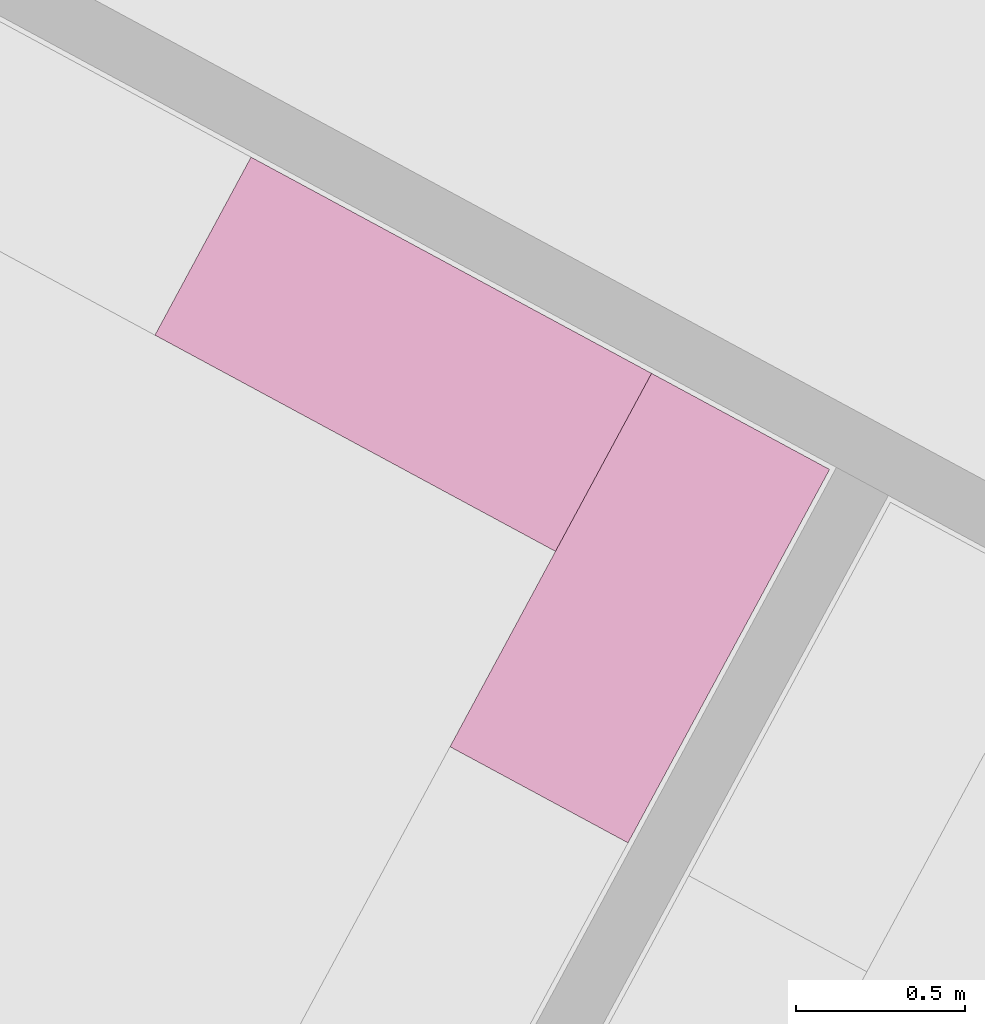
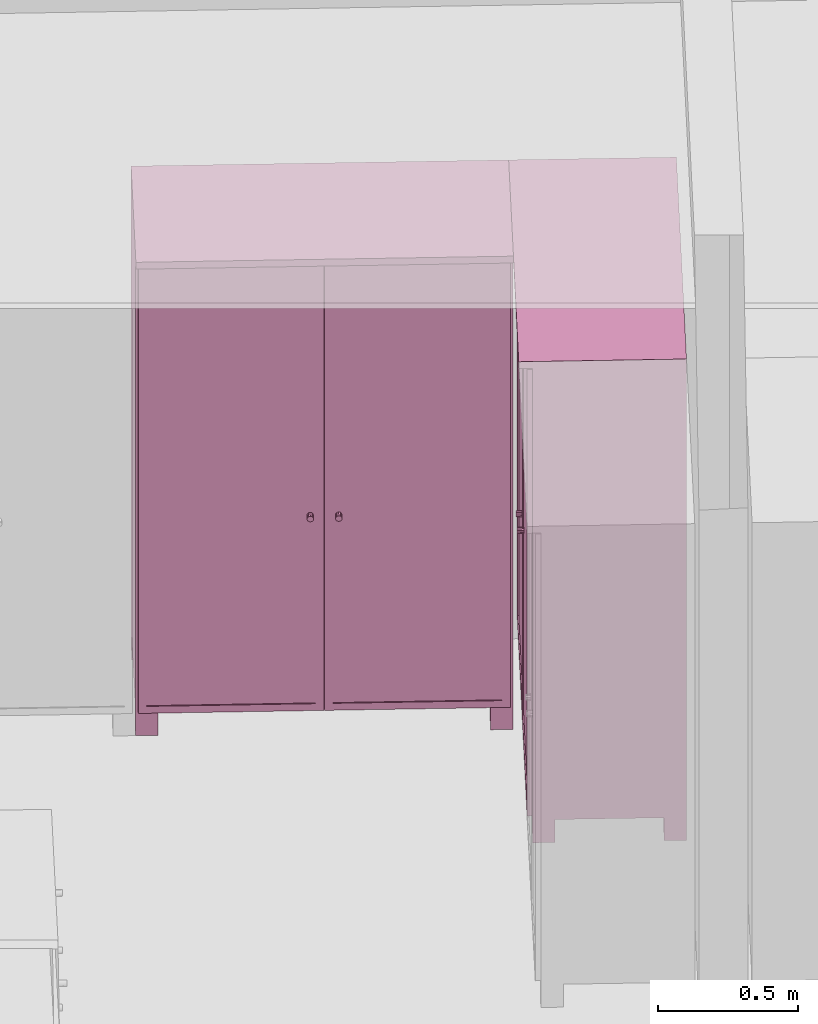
# One storey, part 32 of 48: 2 furnishings.
"""IFC2X3 building model written with IfcOpenShell, lengths in metres."""

from ifc_helpers import new_model, entity, si_unit, converted_unit, derived_unit, money_unit, direction, frame, origin_with_axes, place, context, subcontext, project, spatial, faceted_brep, type_object, element, save


model = new_model("IFC2X3")

# Units and contexts
model_context = context("Model", 3, precision=1e-05, world=origin_with_axes(), true_north=direction((0.0, 1.0)))
body_context = subcontext(model_context, "Body", "Model", "MODEL_VIEW")
ifc_project = project(units=[si_unit("LENGTHUNIT", "METRE"), si_unit("AREAUNIT", "SQUARE_METRE"), si_unit("VOLUMEUNIT", "CUBIC_METRE"), converted_unit("PLANEANGLEUNIT", "DEGREE", entity("IfcPlaneAngleMeasure", 0.0174532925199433), si_unit("PLANEANGLEUNIT", "RADIAN"), dimensions=[0, 0, 0, 0, 0, 0, 0]), money_unit("EUR"), converted_unit("TIMEUNIT", "Year", entity("IfcTimeMeasure", 31556926.0), si_unit("TIMEUNIT", "SECOND"), dimensions=[0, 0, 1, 0, 0, 0, 0]), si_unit("MASSUNIT", "GRAM", prefix="KILO"), si_unit("THERMODYNAMICTEMPERATUREUNIT", "DEGREE_CELSIUS"), si_unit("LUMINOUSINTENSITYUNIT", "LUMEN"), si_unit("ENERGYUNIT", "JOULE", prefix="MEGA"), derived_unit("THERMALCONDUCTANCEUNIT", [(si_unit("POWERUNIT", "WATT"), 1), (si_unit("LENGTHUNIT", "METRE"), -1), (si_unit("THERMODYNAMICTEMPERATUREUNIT", "KELVIN"), -1)]), derived_unit("SPECIFICHEATCAPACITYUNIT", [(si_unit("ENERGYUNIT", "JOULE"), 1), (si_unit("MASSUNIT", "GRAM", prefix="KILO"), -1), (si_unit("THERMODYNAMICTEMPERATUREUNIT", "KELVIN"), -1)]), derived_unit("MASSDENSITYUNIT", [(si_unit("MASSUNIT", "GRAM", prefix="KILO"), 1), (si_unit("VOLUMEUNIT", "CUBIC_METRE"), -1)])], contexts=[model_context])

# Site, building, storey
site_placement = place(None, frame((-3.949935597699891, 1.740105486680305, 0.0), z_axis=(0.0, 0.0, 1.0), x_axis=(0.8799804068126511, -0.475009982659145, 0.0)))
site = spatial("IfcSite", under=ifc_project, at=site_placement, Name="Gelände", CompositionType="ELEMENT")
building_placement = place(site_placement, origin_with_axes())
building = spatial("IfcBuilding", under=site, at=building_placement, Name="Gebäude", CompositionType="ELEMENT")
storey_placement = place(building_placement, frame((0.0, 0.0, 4.55), z_axis=(0.0, 0.0, 1.0), x_axis=(1.0, 0.0, 0.0)))
storey = spatial("IfcBuildingStorey", under=building, at=storey_placement, Name="Staffelgeschoss", CompositionType="ELEMENT", Elevation=4.55)

# Furnishings
furnishing_element_type = type_object("IfcFurnishingElementType", Name="Kleiderschrank 22")
furnishing_1_placement = place(storey_placement, frame((15.97849488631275, 5.70306071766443, 0.0), z_axis=(0.0, 0.0, 1.0), x_axis=(0.0, -1.0, 0.0)))
element("IfcFurnishingElement", 1, at=furnishing_1_placement, inside=storey, type_object=furnishing_element_type, Name="Objekt-0066", context=body_context, shape_type="Brep", body=[
    faceted_brep([(0.02000000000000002, 0.6000000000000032, 0.12), (0.02000000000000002, 0.5800000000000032, 0.12), (0.02000000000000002, 0.5800000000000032, 2.05), (0.02000000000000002, 0.6000000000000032, 2.05), (1.238534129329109, 0.6000000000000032, 0.12), (1.238534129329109, 0.5800000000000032, 0.12), (1.238534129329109, 0.5800000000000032, 2.05), (1.238534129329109, 0.6000000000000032, 2.05)], [[[0, 1, 2, 3]], [[0, 4, 5, 1]], [[1, 5, 6, 2]], [[3, 2, 6, 7]], [[4, 0, 3, 7]], [[5, 4, 7, 6]]]),
    faceted_brep([(1.258534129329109, 0.05000000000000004, 0.1), (1.238534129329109, 0.05000000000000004, 0.1), (1.238534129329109, 0.6000000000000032, 0.1), (1.258534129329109, 0.6000000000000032, 0.1), (1.258534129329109, 0.05000000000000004, 2.07), (1.238534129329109, 0.05000000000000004, 2.07), (1.238534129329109, 0.6000000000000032, 2.07), (1.258534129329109, 0.6000000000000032, 2.07)], [[[0, 1, 2, 3]], [[1, 0, 4, 5]], [[2, 1, 5, 6]], [[3, 2, 6, 7]], [[0, 3, 7, 4]], [[5, 4, 7, 6]]]),
    faceted_brep([(0.02, 0.05000000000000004, 0.1), (0.0, 0.05000000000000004, 0.1), (0.0, 0.6000000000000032, 0.1), (0.02, 0.6000000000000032, 0.1), (0.02, 0.05000000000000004, 2.07), (0.0, 0.05000000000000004, 2.07), (0.0, 0.6000000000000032, 2.07), (0.02, 0.6000000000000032, 2.07)], [[[0, 1, 2, 3]], [[1, 0, 4, 5]], [[2, 1, 5, 6]], [[3, 2, 6, 7]], [[0, 3, 7, 4]], [[5, 4, 7, 6]]]),
    faceted_brep([(1.238534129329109, 0.05000000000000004, 0.1), (0.02000000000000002, 0.05000000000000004, 0.1), (0.02000000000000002, 0.6000000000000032, 0.1), (1.238534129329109, 0.6000000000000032, 0.1), (1.238534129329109, 0.05000000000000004, 0.12), (0.02000000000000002, 0.05000000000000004, 0.12), (0.02000000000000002, 0.6000000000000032, 0.12), (1.238534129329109, 0.6000000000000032, 0.12)], [[[0, 1, 2, 3]], [[1, 0, 4, 5]], [[2, 1, 5, 6]], [[3, 2, 6, 7]], [[0, 3, 7, 4]], [[5, 4, 7, 6]]]),
    faceted_brep([(1.238534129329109, 0.05000000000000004, 2.05), (0.02000000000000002, 0.05000000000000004, 2.05), (0.02000000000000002, 0.6000000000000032, 2.05), (1.238534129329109, 0.6000000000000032, 2.05), (1.238534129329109, 0.05000000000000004, 2.07), (0.02000000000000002, 0.05000000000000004, 2.07), (0.02000000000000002, 0.6000000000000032, 2.07), (1.238534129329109, 0.6000000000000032, 2.07)], [[[0, 1, 2, 3]], [[1, 0, 4, 5]], [[2, 1, 5, 6]], [[3, 2, 6, 7]], [[0, 3, 7, 4]], [[5, 4, 7, 6]]]),
    faceted_brep([(1.258534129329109, 0.6000000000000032, 2.07), (1.258534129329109, 0.6000000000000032, 2.1), (1.258534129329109, 0.0, 2.1), (1.258534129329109, 0.0, 2.07), (0.0, 0.6000000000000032, 2.07), (0.0, 0.6000000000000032, 2.1), (0.0, 0.0, 2.1), (0.0, 0.0, 2.07)], [[[0, 1, 2, 3]], [[4, 5, 1, 0]], [[1, 5, 6, 2]], [[3, 2, 6, 7]], [[0, 3, 7, 4]], [[7, 6, 5, 4]]]),
    faceted_brep([(0.08000000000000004, 0.5200000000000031, 0.0), (0.08000000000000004, 0.6000000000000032, 0.0), (0.08000000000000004, 0.6000000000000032, 0.1), (0.08000000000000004, 0.5200000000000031, 0.1), (0.0, 0.5200000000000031, 0.0), (0.0, 0.6000000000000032, 0.0), (0.0, 0.6000000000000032, 0.1), (0.0, 0.5200000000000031, 0.1)], [[[0, 1, 2, 3]], [[0, 4, 5, 1]], [[1, 5, 6, 2]], [[3, 2, 6, 7]], [[4, 0, 3, 7]], [[5, 4, 7, 6]]]),
    faceted_brep([(1.258534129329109, 0.5200000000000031, 0.0), (1.258534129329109, 0.6000000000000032, 0.0), (1.258534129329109, 0.6000000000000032, 0.1), (1.258534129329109, 0.5200000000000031, 0.1), (1.178534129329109, 0.5200000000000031, 0.0), (1.178534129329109, 0.6000000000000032, 0.0), (1.178534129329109, 0.6000000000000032, 0.1), (1.178534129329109, 0.5200000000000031, 0.1)], [[[0, 1, 2, 3]], [[0, 4, 5, 1]], [[1, 5, 6, 2]], [[3, 2, 6, 7]], [[4, 0, 3, 7]], [[5, 4, 7, 6]]]),
    faceted_brep([(0.08000000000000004, 0.05000000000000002, 0.0), (0.08000000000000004, 0.13, 0.0), (0.08000000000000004, 0.13, 0.1), (0.08000000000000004, 0.05000000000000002, 0.1), (0.0, 0.05000000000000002, 0.0), (0.0, 0.13, 0.0), (0.0, 0.13, 0.1), (0.0, 0.05000000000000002, 0.1)], [[[0, 1, 2, 3]], [[0, 4, 5, 1]], [[1, 5, 6, 2]], [[3, 2, 6, 7]], [[4, 0, 3, 7]], [[5, 4, 7, 6]]]),
    faceted_brep([(1.258534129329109, 0.05000000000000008, 0.0), (1.258534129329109, 0.1300000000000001, 0.0), (1.258534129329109, 0.1300000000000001, 0.1), (1.258534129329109, 0.05000000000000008, 0.1), (1.178534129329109, 0.05000000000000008, 0.0), (1.178534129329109, 0.1300000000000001, 0.0), (1.178534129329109, 0.1300000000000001, 0.1), (1.178534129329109, 0.05000000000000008, 0.1)], [[[0, 1, 2, 3]], [[0, 4, 5, 1]], [[1, 5, 6, 2]], [[3, 2, 6, 7]], [[4, 0, 3, 7]], [[5, 4, 7, 6]]]),
    faceted_brep([(0.6287670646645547, 0.05, 0.1104999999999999), (0.6287670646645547, 0.05000000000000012, 2.0595), (0.6287670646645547, 0.03000000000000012, 2.0595), (0.6287670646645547, 0.03, 0.1104999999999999), (0.5987670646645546, 0.05, 0.1405), (0.5987670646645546, 0.05000000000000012, 2.0295), (0.5987670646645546, 0.03000000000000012, 2.0295), (0.5987670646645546, 0.03000000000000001, 0.1405)], [[[0, 1, 2, 3]], [[0, 4, 5, 1]], [[1, 5, 6, 2]], [[3, 2, 6, 7]], [[4, 0, 3, 7]], [[5, 4, 7, 6]]]),
    faceted_brep([(0.04049999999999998, 0.05, 0.1405), (0.04049999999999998, 0.05000000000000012, 2.0295), (0.04049999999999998, 0.03000000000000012, 2.0295), (0.04049999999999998, 0.03000000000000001, 0.1405), (0.01050000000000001, 0.05, 0.1104999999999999), (0.01050000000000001, 0.05000000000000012, 2.0595), (0.01050000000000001, 0.03000000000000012, 2.0595), (0.01050000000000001, 0.03, 0.1104999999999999)], [[[0, 1, 2, 3]], [[0, 4, 5, 1]], [[1, 5, 6, 2]], [[3, 2, 6, 7]], [[4, 0, 3, 7]], [[5, 4, 7, 6]]]),
    faceted_brep([(0.01050000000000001, 0.05, 0.1104999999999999), (0.6287670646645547, 0.05, 0.1104999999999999), (0.6287670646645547, 0.03, 0.1104999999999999), (0.01050000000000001, 0.03, 0.1104999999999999), (0.04049999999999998, 0.05, 0.1405), (0.5987670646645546, 0.05, 0.1405), (0.5987670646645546, 0.03000000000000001, 0.1405), (0.04049999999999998, 0.03000000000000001, 0.1405)], [[[0, 1, 2, 3]], [[0, 4, 5, 1]], [[1, 5, 6, 2]], [[3, 2, 6, 7]], [[4, 0, 3, 7]], [[5, 4, 7, 6]]]),
    faceted_brep([(0.04049999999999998, 0.05000000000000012, 2.0295), (0.5987670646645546, 0.05000000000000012, 2.0295), (0.5987670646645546, 0.03000000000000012, 2.0295), (0.04049999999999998, 0.03000000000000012, 2.0295), (0.01050000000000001, 0.05000000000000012, 2.0595), (0.6287670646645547, 0.05000000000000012, 2.0595), (0.6287670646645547, 0.03000000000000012, 2.0595), (0.01050000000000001, 0.03000000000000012, 2.0595)], [[[0, 1, 2, 3]], [[0, 4, 5, 1]], [[1, 5, 6, 2]], [[3, 2, 6, 7]], [[4, 0, 3, 7]], [[5, 4, 7, 6]]]),
    faceted_brep([(0.5987670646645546, 0.04500000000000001, 0.1405), (0.5987670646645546, 0.04500000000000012, 2.0295), (0.5987670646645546, 0.03500000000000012, 2.0295), (0.5987670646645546, 0.035, 0.1405), (0.04049999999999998, 0.04500000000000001, 0.1405), (0.04049999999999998, 0.04500000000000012, 2.0295), (0.04049999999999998, 0.03500000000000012, 2.0295), (0.04049999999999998, 0.035, 0.1405)], [[[0, 1, 2, 3]], [[0, 4, 5, 1]], [[1, 5, 6, 2]], [[3, 2, 6, 7]], [[4, 0, 3, 7]], [[5, 4, 7, 6]]]),
    faceted_brep([(0.5886593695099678, 0.035, 0.954), (0.5842670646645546, 0.035, 0.9496076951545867), (0.5782670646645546, 0.035, 0.948), (0.5722670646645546, 0.035, 0.9496076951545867), (0.5678747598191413, 0.035, 0.954), (0.5662670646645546, 0.035, 0.96), (0.5678747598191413, 0.035, 0.966), (0.5722670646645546, 0.035, 0.9703923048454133), (0.5782670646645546, 0.035, 0.972), (0.5842670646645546, 0.035, 0.9703923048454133), (0.5886593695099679, 0.035, 0.966), (0.5902670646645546, 0.035, 0.96), (0.5886593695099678, 0.01, 0.954), (0.5842670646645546, 0.01, 0.9496076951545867), (0.5782670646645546, 0.01, 0.948), (0.5722670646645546, 0.01, 0.9496076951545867), (0.5678747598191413, 0.01, 0.954), (0.5662670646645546, 0.01, 0.96), (0.5678747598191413, 0.01, 0.966), (0.5722670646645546, 0.01, 0.9703923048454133), (0.5782670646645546, 0.01, 0.972), (0.5842670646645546, 0.01, 0.9703923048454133), (0.5886593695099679, 0.01, 0.966), (0.5902670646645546, 0.01, 0.96)], [[[0, 1, 2, 3, 4, 5, 6, 7, 8, 9, 10, 11]], [[1, 0, 12, 13]], [[2, 1, 13, 14]], [[3, 2, 14, 15]], [[4, 3, 15, 16]], [[5, 4, 16, 17]], [[6, 5, 17, 18]], [[7, 6, 18, 19]], [[8, 7, 19, 20]], [[9, 8, 20, 21]], [[10, 9, 21, 22]], [[11, 10, 22, 23]], [[0, 11, 23, 12]], [[12, 23, 22, 21, 20, 19, 18, 17, 16, 15, 14, 13]]]),
    faceted_brep([(1.249034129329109, 0.05, 0.1104999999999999), (1.249034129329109, 0.05000000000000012, 2.0595), (1.249034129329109, 0.03000000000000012, 2.0595), (1.249034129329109, 0.03, 0.1104999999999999), (1.219034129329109, 0.05, 0.1405), (1.219034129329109, 0.05000000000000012, 2.0295), (1.219034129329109, 0.03000000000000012, 2.0295), (1.219034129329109, 0.03000000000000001, 0.1405)], [[[0, 1, 2, 3]], [[0, 4, 5, 1]], [[1, 5, 6, 2]], [[3, 2, 6, 7]], [[4, 0, 3, 7]], [[5, 4, 7, 6]]]),
    faceted_brep([(0.6607670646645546, 0.05, 0.1405), (0.6607670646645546, 0.05000000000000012, 2.0295), (0.6607670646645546, 0.03000000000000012, 2.0295), (0.6607670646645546, 0.03000000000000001, 0.1405), (0.6307670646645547, 0.05, 0.1104999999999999), (0.6307670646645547, 0.05000000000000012, 2.0595), (0.6307670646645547, 0.03000000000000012, 2.0595), (0.6307670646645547, 0.03, 0.1104999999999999)], [[[0, 1, 2, 3]], [[0, 4, 5, 1]], [[1, 5, 6, 2]], [[3, 2, 6, 7]], [[4, 0, 3, 7]], [[5, 4, 7, 6]]]),
    faceted_brep([(0.6307670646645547, 0.05, 0.1104999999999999), (1.249034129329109, 0.05, 0.1104999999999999), (1.249034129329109, 0.03, 0.1104999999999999), (0.6307670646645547, 0.03, 0.1104999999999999), (0.6607670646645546, 0.05, 0.1405), (1.219034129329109, 0.05, 0.1405), (1.219034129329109, 0.03000000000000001, 0.1405), (0.6607670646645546, 0.03000000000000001, 0.1405)], [[[0, 1, 2, 3]], [[0, 4, 5, 1]], [[1, 5, 6, 2]], [[3, 2, 6, 7]], [[4, 0, 3, 7]], [[5, 4, 7, 6]]]),
    faceted_brep([(0.6607670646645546, 0.05000000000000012, 2.0295), (1.219034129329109, 0.05000000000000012, 2.0295), (1.219034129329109, 0.03000000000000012, 2.0295), (0.6607670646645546, 0.03000000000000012, 2.0295), (0.6307670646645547, 0.05000000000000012, 2.0595), (1.249034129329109, 0.05000000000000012, 2.0595), (1.249034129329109, 0.03000000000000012, 2.0595), (0.6307670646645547, 0.03000000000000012, 2.0595)], [[[0, 1, 2, 3]], [[0, 4, 5, 1]], [[1, 5, 6, 2]], [[3, 2, 6, 7]], [[4, 0, 3, 7]], [[5, 4, 7, 6]]]),
    faceted_brep([(1.219034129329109, 0.04500000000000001, 0.1405), (1.219034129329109, 0.04500000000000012, 2.0295), (1.219034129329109, 0.04000000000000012, 2.0295), (1.219034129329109, 0.04000000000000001, 0.1405), (0.6607670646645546, 0.04500000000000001, 0.1405), (0.6607670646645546, 0.04500000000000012, 2.0295), (0.6607670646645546, 0.04000000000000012, 2.0295), (0.6607670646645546, 0.04000000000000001, 0.1405)], [[[0, 1, 2, 3]], [[0, 4, 5, 1]], [[1, 5, 6, 2]], [[3, 2, 6, 7]], [[4, 0, 3, 7]], [[5, 4, 7, 6]]]),
    faceted_brep([(1.219034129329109, 0.04000000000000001, 0.1405), (1.219034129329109, 0.04000000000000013, 2.0295), (1.219034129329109, 0.03500000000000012, 2.0295), (1.219034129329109, 0.03500000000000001, 0.1405), (0.6607670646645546, 0.04000000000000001, 0.1405), (0.6607670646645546, 0.04000000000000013, 2.0295), (0.6607670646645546, 0.03500000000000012, 2.0295), (0.6607670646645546, 0.03500000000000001, 0.1405)], [[[0, 1, 2, 3]], [[0, 4, 5, 1]], [[1, 5, 6, 2]], [[3, 2, 6, 7]], [[4, 0, 3, 7]], [[5, 4, 7, 6]]]),
    faceted_brep([(0.6698747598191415, 0.035, 0.954), (0.6682670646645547, 0.035, 0.96), (0.6698747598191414, 0.035, 0.966), (0.6742670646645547, 0.035, 0.9703923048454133), (0.6802670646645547, 0.035, 0.972), (0.6862670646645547, 0.035, 0.9703923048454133), (0.690659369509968, 0.035, 0.966), (0.6922670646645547, 0.035, 0.96), (0.690659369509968, 0.035, 0.954), (0.6862670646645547, 0.035, 0.9496076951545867), (0.6802670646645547, 0.035, 0.948), (0.6742670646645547, 0.035, 0.9496076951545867), (0.6698747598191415, 0.01, 0.954), (0.6682670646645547, 0.01, 0.96), (0.6698747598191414, 0.01, 0.966), (0.6742670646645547, 0.01, 0.9703923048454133), (0.6802670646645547, 0.01, 0.972), (0.6862670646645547, 0.01, 0.9703923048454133), (0.690659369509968, 0.01, 0.966), (0.6922670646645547, 0.01, 0.96), (0.690659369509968, 0.01, 0.954), (0.6862670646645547, 0.01, 0.9496076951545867), (0.6802670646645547, 0.01, 0.948), (0.6742670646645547, 0.01, 0.9496076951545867)], [[[0, 1, 2, 3, 4, 5, 6, 7, 8, 9, 10, 11]], [[0, 12, 13, 1]], [[1, 13, 14, 2]], [[2, 14, 15, 3]], [[3, 15, 16, 4]], [[4, 16, 17, 5]], [[5, 17, 18, 6]], [[6, 18, 19, 7]], [[7, 19, 20, 8]], [[8, 20, 21, 9]], [[9, 21, 22, 10]], [[10, 22, 23, 11]], [[11, 23, 12, 0]], [[12, 23, 22, 21, 20, 19, 18, 17, 16, 15, 14, 13]]]),
])
furnishing_2_placement = place(storey_placement, frame((15.97849488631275, 5.103060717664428, 0.0), z_axis=(0.0, 0.0, 1.0), x_axis=(1.0, 0.0, 0.0)))
element("IfcFurnishingElement", 2, at=furnishing_2_placement, inside=storey, type_object=furnishing_element_type, Name="Objekt-0066", context=body_context, shape_type="Brep", body=[
    faceted_brep([(-0.02000000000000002, 0.6000000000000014, 0.12), (-0.02000000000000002, 0.6000000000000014, 2.05), (-0.02000000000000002, 0.5800000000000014, 2.05), (-0.02000000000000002, 0.5800000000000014, 0.12), (-1.33, 0.6000000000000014, 0.12), (-1.33, 0.6000000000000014, 2.05), (-1.33, 0.5800000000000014, 2.05), (-1.33, 0.5800000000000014, 0.12)], [[[0, 1, 2, 3]], [[4, 5, 1, 0]], [[1, 5, 6, 2]], [[3, 2, 6, 7]], [[0, 3, 7, 4]], [[7, 6, 5, 4]]]),
    faceted_brep([(-1.35, 0.05000000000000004, 0.1), (-1.35, 0.6000000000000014, 0.1), (-1.33, 0.6000000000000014, 0.1), (-1.33, 0.05000000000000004, 0.1), (-1.35, 0.05000000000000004, 2.07), (-1.35, 0.6000000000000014, 2.07), (-1.33, 0.6000000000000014, 2.07), (-1.33, 0.05000000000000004, 2.07)], [[[0, 1, 2, 3]], [[0, 4, 5, 1]], [[1, 5, 6, 2]], [[2, 6, 7, 3]], [[3, 7, 4, 0]], [[7, 6, 5, 4]]]),
    faceted_brep([(-0.02, 0.05000000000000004, 0.1), (-0.02, 0.6000000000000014, 0.1), (0.0, 0.6000000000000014, 0.1), (0.0, 0.05000000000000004, 0.1), (-0.02, 0.05000000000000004, 2.07), (-0.02, 0.6000000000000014, 2.07), (0.0, 0.6000000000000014, 2.07), (0.0, 0.05000000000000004, 2.07)], [[[0, 1, 2, 3]], [[0, 4, 5, 1]], [[1, 5, 6, 2]], [[2, 6, 7, 3]], [[3, 7, 4, 0]], [[7, 6, 5, 4]]]),
    faceted_brep([(-1.33, 0.05000000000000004, 0.1), (-1.33, 0.6000000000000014, 0.1), (-0.02000000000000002, 0.6000000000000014, 0.1), (-0.02000000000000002, 0.05000000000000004, 0.1), (-1.33, 0.05000000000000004, 0.12), (-1.33, 0.6000000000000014, 0.12), (-0.02000000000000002, 0.6000000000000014, 0.12), (-0.02000000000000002, 0.05000000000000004, 0.12)], [[[0, 1, 2, 3]], [[0, 4, 5, 1]], [[1, 5, 6, 2]], [[2, 6, 7, 3]], [[3, 7, 4, 0]], [[7, 6, 5, 4]]]),
    faceted_brep([(-1.33, 0.05000000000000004, 2.05), (-1.33, 0.6000000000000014, 2.05), (-0.02000000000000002, 0.6000000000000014, 2.05), (-0.02000000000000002, 0.05000000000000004, 2.05), (-1.33, 0.05000000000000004, 2.07), (-1.33, 0.6000000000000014, 2.07), (-0.02000000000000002, 0.6000000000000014, 2.07), (-0.02000000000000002, 0.05000000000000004, 2.07)], [[[0, 1, 2, 3]], [[0, 4, 5, 1]], [[1, 5, 6, 2]], [[2, 6, 7, 3]], [[3, 7, 4, 0]], [[7, 6, 5, 4]]]),
    faceted_brep([(-1.35, 0.6000000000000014, 2.07), (-1.35, 0.0, 2.07), (-1.35, 0.0, 2.1), (-1.35, 0.6000000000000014, 2.1), (0.0, 0.6000000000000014, 2.07), (0.0, 0.0, 2.07), (0.0, 0.0, 2.1), (0.0, 0.6000000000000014, 2.1)], [[[0, 1, 2, 3]], [[0, 4, 5, 1]], [[1, 5, 6, 2]], [[3, 2, 6, 7]], [[4, 0, 3, 7]], [[5, 4, 7, 6]]]),
    faceted_brep([(-0.08000000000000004, 0.5200000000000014, 0.0), (-0.08000000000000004, 0.5200000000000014, 0.1), (-0.08000000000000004, 0.6000000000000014, 0.1), (-0.08000000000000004, 0.6000000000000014, 0.0), (0.0, 0.5200000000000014, 0.0), (0.0, 0.5200000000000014, 0.1), (0.0, 0.6000000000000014, 0.1), (0.0, 0.6000000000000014, 0.0)], [[[0, 1, 2, 3]], [[4, 5, 1, 0]], [[1, 5, 6, 2]], [[3, 2, 6, 7]], [[0, 3, 7, 4]], [[7, 6, 5, 4]]]),
    faceted_brep([(-1.35, 0.5200000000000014, 0.0), (-1.35, 0.5200000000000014, 0.1), (-1.35, 0.6000000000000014, 0.1), (-1.35, 0.6000000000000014, 0.0), (-1.27, 0.5200000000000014, 0.0), (-1.27, 0.5200000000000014, 0.1), (-1.27, 0.6000000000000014, 0.1), (-1.27, 0.6000000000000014, 0.0)], [[[0, 1, 2, 3]], [[4, 5, 1, 0]], [[1, 5, 6, 2]], [[3, 2, 6, 7]], [[0, 3, 7, 4]], [[7, 6, 5, 4]]]),
    faceted_brep([(-0.08000000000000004, 0.05000000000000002, 0.0), (-0.08000000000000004, 0.05000000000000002, 0.1), (-0.08000000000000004, 0.13, 0.1), (-0.08000000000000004, 0.13, 0.0), (0.0, 0.05000000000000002, 0.0), (0.0, 0.05000000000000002, 0.1), (0.0, 0.13, 0.1), (0.0, 0.13, 0.0)], [[[0, 1, 2, 3]], [[4, 5, 1, 0]], [[1, 5, 6, 2]], [[3, 2, 6, 7]], [[0, 3, 7, 4]], [[7, 6, 5, 4]]]),
    faceted_brep([(-1.35, 0.05000000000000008, 0.0), (-1.35, 0.05000000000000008, 0.1), (-1.35, 0.1300000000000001, 0.1), (-1.35, 0.1300000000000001, 0.0), (-1.27, 0.05000000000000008, 0.0), (-1.27, 0.05000000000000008, 0.1), (-1.27, 0.1300000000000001, 0.1), (-1.27, 0.1300000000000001, 0.0)], [[[0, 1, 2, 3]], [[4, 5, 1, 0]], [[1, 5, 6, 2]], [[3, 2, 6, 7]], [[0, 3, 7, 4]], [[7, 6, 5, 4]]]),
    faceted_brep([(-0.6745000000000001, 0.05, 0.1104999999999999), (-0.6745000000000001, 0.03, 0.1104999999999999), (-0.6745000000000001, 0.03000000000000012, 2.0595), (-0.6745000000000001, 0.05000000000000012, 2.0595), (-0.6445000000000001, 0.05, 0.1405), (-0.6445000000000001, 0.03000000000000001, 0.1405), (-0.6445000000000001, 0.03000000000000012, 2.0295), (-0.6445000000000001, 0.05000000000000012, 2.0295)], [[[0, 1, 2, 3]], [[4, 5, 1, 0]], [[1, 5, 6, 2]], [[3, 2, 6, 7]], [[0, 3, 7, 4]], [[7, 6, 5, 4]]]),
    faceted_brep([(-0.04049999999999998, 0.05, 0.1405), (-0.04049999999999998, 0.03000000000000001, 0.1405), (-0.04049999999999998, 0.03000000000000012, 2.0295), (-0.04049999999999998, 0.05000000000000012, 2.0295), (-0.01050000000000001, 0.05, 0.1104999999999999), (-0.01050000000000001, 0.03, 0.1104999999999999), (-0.01050000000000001, 0.03000000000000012, 2.0595), (-0.01050000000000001, 0.05000000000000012, 2.0595)], [[[0, 1, 2, 3]], [[4, 5, 1, 0]], [[1, 5, 6, 2]], [[3, 2, 6, 7]], [[0, 3, 7, 4]], [[7, 6, 5, 4]]]),
    faceted_brep([(-0.01050000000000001, 0.05, 0.1104999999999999), (-0.01050000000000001, 0.03, 0.1104999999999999), (-0.6745000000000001, 0.03, 0.1104999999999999), (-0.6745000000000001, 0.05, 0.1104999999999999), (-0.04049999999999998, 0.05, 0.1405), (-0.04049999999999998, 0.03000000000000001, 0.1405), (-0.6445000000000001, 0.03000000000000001, 0.1405), (-0.6445000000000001, 0.05, 0.1405)], [[[0, 1, 2, 3]], [[4, 5, 1, 0]], [[1, 5, 6, 2]], [[3, 2, 6, 7]], [[0, 3, 7, 4]], [[7, 6, 5, 4]]]),
    faceted_brep([(-0.04049999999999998, 0.05000000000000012, 2.0295), (-0.04049999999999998, 0.03000000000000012, 2.0295), (-0.6445000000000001, 0.03000000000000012, 2.0295), (-0.6445000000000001, 0.05000000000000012, 2.0295), (-0.01050000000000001, 0.05000000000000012, 2.0595), (-0.01050000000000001, 0.03000000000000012, 2.0595), (-0.6745000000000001, 0.03000000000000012, 2.0595), (-0.6745000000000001, 0.05000000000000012, 2.0595)], [[[0, 1, 2, 3]], [[4, 5, 1, 0]], [[1, 5, 6, 2]], [[3, 2, 6, 7]], [[0, 3, 7, 4]], [[7, 6, 5, 4]]]),
    faceted_brep([(-0.6445000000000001, 0.04500000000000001, 0.1405), (-0.6445000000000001, 0.035, 0.1405), (-0.6445000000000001, 0.03500000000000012, 2.0295), (-0.6445000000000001, 0.04500000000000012, 2.0295), (-0.04049999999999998, 0.04500000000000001, 0.1405), (-0.04049999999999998, 0.035, 0.1405), (-0.04049999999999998, 0.03500000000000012, 2.0295), (-0.04049999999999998, 0.04500000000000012, 2.0295)], [[[0, 1, 2, 3]], [[4, 5, 1, 0]], [[1, 5, 6, 2]], [[3, 2, 6, 7]], [[0, 3, 7, 4]], [[7, 6, 5, 4]]]),
    faceted_brep([(-0.6343923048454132, 0.035, 0.954), (-0.636, 0.035, 0.96), (-0.6343923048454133, 0.035, 0.966), (-0.63, 0.035, 0.9703923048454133), (-0.624, 0.035, 0.972), (-0.618, 0.035, 0.9703923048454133), (-0.6136076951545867, 0.035, 0.966), (-0.612, 0.035, 0.96), (-0.6136076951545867, 0.035, 0.954), (-0.618, 0.035, 0.9496076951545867), (-0.624, 0.035, 0.948), (-0.63, 0.035, 0.9496076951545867), (-0.6343923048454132, 0.01, 0.954), (-0.636, 0.01, 0.96), (-0.6343923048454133, 0.01, 0.966), (-0.63, 0.01, 0.9703923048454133), (-0.624, 0.01, 0.972), (-0.618, 0.01, 0.9703923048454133), (-0.6136076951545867, 0.01, 0.966), (-0.612, 0.01, 0.96), (-0.6136076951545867, 0.01, 0.954), (-0.618, 0.01, 0.9496076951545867), (-0.624, 0.01, 0.948), (-0.63, 0.01, 0.9496076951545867)], [[[0, 1, 2, 3, 4, 5, 6, 7, 8, 9, 10, 11]], [[0, 12, 13, 1]], [[1, 13, 14, 2]], [[2, 14, 15, 3]], [[3, 15, 16, 4]], [[4, 16, 17, 5]], [[5, 17, 18, 6]], [[6, 18, 19, 7]], [[7, 19, 20, 8]], [[8, 20, 21, 9]], [[9, 21, 22, 10]], [[10, 22, 23, 11]], [[11, 23, 12, 0]], [[12, 23, 22, 21, 20, 19, 18, 17, 16, 15, 14, 13]]]),
    faceted_brep([(-1.3405, 0.05, 0.1104999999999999), (-1.3405, 0.03, 0.1104999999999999), (-1.3405, 0.03000000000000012, 2.0595), (-1.3405, 0.05000000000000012, 2.0595), (-1.3105, 0.05, 0.1405), (-1.3105, 0.03000000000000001, 0.1405), (-1.3105, 0.03000000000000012, 2.0295), (-1.3105, 0.05000000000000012, 2.0295)], [[[0, 1, 2, 3]], [[4, 5, 1, 0]], [[1, 5, 6, 2]], [[3, 2, 6, 7]], [[0, 3, 7, 4]], [[7, 6, 5, 4]]]),
    faceted_brep([(-0.7064999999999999, 0.05, 0.1405), (-0.7064999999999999, 0.03000000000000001, 0.1405), (-0.7064999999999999, 0.03000000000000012, 2.0295), (-0.7064999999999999, 0.05000000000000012, 2.0295), (-0.6764999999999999, 0.05, 0.1104999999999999), (-0.6764999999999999, 0.03, 0.1104999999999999), (-0.6764999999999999, 0.03000000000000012, 2.0595), (-0.6764999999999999, 0.05000000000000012, 2.0595)], [[[0, 1, 2, 3]], [[4, 5, 1, 0]], [[1, 5, 6, 2]], [[3, 2, 6, 7]], [[0, 3, 7, 4]], [[7, 6, 5, 4]]]),
    faceted_brep([(-0.6764999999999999, 0.05, 0.1104999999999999), (-0.6764999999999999, 0.03, 0.1104999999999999), (-1.3405, 0.03, 0.1104999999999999), (-1.3405, 0.05, 0.1104999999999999), (-0.7064999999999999, 0.05, 0.1405), (-0.7064999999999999, 0.03000000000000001, 0.1405), (-1.3105, 0.03000000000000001, 0.1405), (-1.3105, 0.05, 0.1405)], [[[0, 1, 2, 3]], [[4, 5, 1, 0]], [[1, 5, 6, 2]], [[3, 2, 6, 7]], [[0, 3, 7, 4]], [[7, 6, 5, 4]]]),
    faceted_brep([(-0.7064999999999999, 0.05000000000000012, 2.0295), (-0.7064999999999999, 0.03000000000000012, 2.0295), (-1.3105, 0.03000000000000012, 2.0295), (-1.3105, 0.05000000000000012, 2.0295), (-0.6764999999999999, 0.05000000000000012, 2.0595), (-0.6764999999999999, 0.03000000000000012, 2.0595), (-1.3405, 0.03000000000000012, 2.0595), (-1.3405, 0.05000000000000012, 2.0595)], [[[0, 1, 2, 3]], [[4, 5, 1, 0]], [[1, 5, 6, 2]], [[3, 2, 6, 7]], [[0, 3, 7, 4]], [[7, 6, 5, 4]]]),
    faceted_brep([(-1.3105, 0.04500000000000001, 0.1405), (-1.3105, 0.04000000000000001, 0.1405), (-1.3105, 0.04000000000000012, 2.0295), (-1.3105, 0.04500000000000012, 2.0295), (-0.7064999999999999, 0.04500000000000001, 0.1405), (-0.7064999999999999, 0.04000000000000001, 0.1405), (-0.7064999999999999, 0.04000000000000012, 2.0295), (-0.7064999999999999, 0.04500000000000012, 2.0295)], [[[0, 1, 2, 3]], [[4, 5, 1, 0]], [[1, 5, 6, 2]], [[3, 2, 6, 7]], [[0, 3, 7, 4]], [[7, 6, 5, 4]]]),
    faceted_brep([(-1.3105, 0.04000000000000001, 0.1405), (-1.3105, 0.03500000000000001, 0.1405), (-1.3105, 0.03500000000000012, 2.0295), (-1.3105, 0.04000000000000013, 2.0295), (-0.7064999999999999, 0.04000000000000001, 0.1405), (-0.7064999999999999, 0.03500000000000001, 0.1405), (-0.7064999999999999, 0.03500000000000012, 2.0295), (-0.7064999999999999, 0.04000000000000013, 2.0295)], [[[0, 1, 2, 3]], [[4, 5, 1, 0]], [[1, 5, 6, 2]], [[3, 2, 6, 7]], [[0, 3, 7, 4]], [[7, 6, 5, 4]]]),
    faceted_brep([(-0.7156076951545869, 0.035, 0.954), (-0.7200000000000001, 0.035, 0.9496076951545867), (-0.7260000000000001, 0.035, 0.948), (-0.7320000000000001, 0.035, 0.9496076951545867), (-0.7363923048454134, 0.035, 0.954), (-0.7380000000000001, 0.035, 0.96), (-0.7363923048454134, 0.035, 0.966), (-0.7320000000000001, 0.035, 0.9703923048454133), (-0.7260000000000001, 0.035, 0.972), (-0.7200000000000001, 0.035, 0.9703923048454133), (-0.7156076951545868, 0.035, 0.966), (-0.7140000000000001, 0.035, 0.96), (-0.7156076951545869, 0.01, 0.954), (-0.7200000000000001, 0.01, 0.9496076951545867), (-0.7260000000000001, 0.01, 0.948), (-0.7320000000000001, 0.01, 0.9496076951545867), (-0.7363923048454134, 0.01, 0.954), (-0.7380000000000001, 0.01, 0.96), (-0.7363923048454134, 0.01, 0.966), (-0.7320000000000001, 0.01, 0.9703923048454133), (-0.7260000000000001, 0.01, 0.972), (-0.7200000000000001, 0.01, 0.9703923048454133), (-0.7156076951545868, 0.01, 0.966), (-0.7140000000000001, 0.01, 0.96)], [[[0, 1, 2, 3, 4, 5, 6, 7, 8, 9, 10, 11]], [[1, 0, 12, 13]], [[2, 1, 13, 14]], [[3, 2, 14, 15]], [[4, 3, 15, 16]], [[5, 4, 16, 17]], [[6, 5, 17, 18]], [[7, 6, 18, 19]], [[8, 7, 19, 20]], [[9, 8, 20, 21]], [[10, 9, 21, 22]], [[11, 10, 22, 23]], [[0, 11, 23, 12]], [[12, 23, 22, 21, 20, 19, 18, 17, 16, 15, 14, 13]]]),
])

save(model, "model.ifc")
